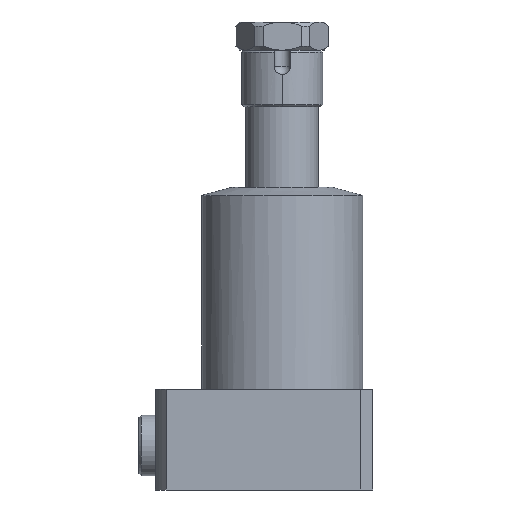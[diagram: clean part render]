
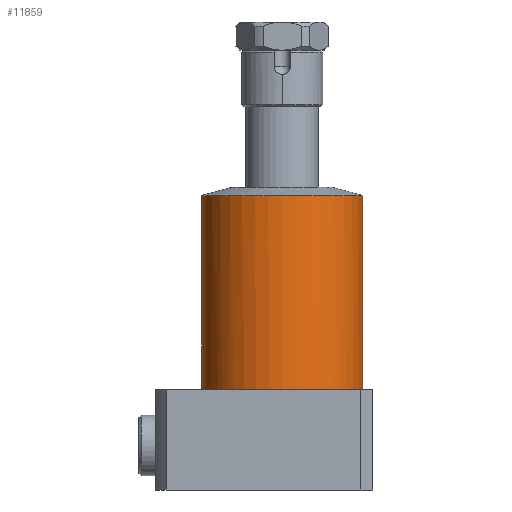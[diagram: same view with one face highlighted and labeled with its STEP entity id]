
A CAD part, front view. The second image highlights one B-rep face of the part: STEP entity #11859.
In plain terms, the highlighted cylindrical face has radius 20 mm (diameter 40 mm), a partial arc.
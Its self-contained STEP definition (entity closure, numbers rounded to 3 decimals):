
#250 = CARTESIAN_POINT ( 'NONE',  ( 0., 0., 75. ) ) ;
#312 = CARTESIAN_POINT ( 'NONE',  ( 15.909, -12.12, 25. ) ) ;
#523 = VECTOR ( 'NONE', #1491, 1000. ) ;
#920 = CARTESIAN_POINT ( 'NONE',  ( -20., 0., 25. ) ) ;
#990 = AXIS2_PLACEMENT_3D ( 'NONE', #9708, #1537, #11060 ) ;
#1280 = DIRECTION ( 'NONE',  ( -1., 0., 0. ) ) ;
#1489 = EDGE_CURVE ( 'NONE', #8968, #14851, #10372, .T. ) ;
#1491 = DIRECTION ( 'NONE',  ( 0., 0., -1. ) ) ;
#1537 = DIRECTION ( 'NONE',  ( 0., 0., -1. ) ) ;
#1540 = CARTESIAN_POINT ( 'NONE',  ( -20., 0., 75. ) ) ;
#1660 = CARTESIAN_POINT ( 'NONE',  ( 0., 0., 25. ) ) ;
#2323 = VERTEX_POINT ( 'NONE', #7918 ) ;
#2844 = CARTESIAN_POINT ( 'NONE',  ( -20., 0., 72.99 ) ) ;
#2946 = CARTESIAN_POINT ( 'NONE',  ( 0., 0., 25. ) ) ;
#2949 = AXIS2_PLACEMENT_3D ( 'NONE', #6509, #16010, #7887 ) ;
#3023 = DIRECTION ( 'NONE',  ( -1., 0., 0. ) ) ;
#3187 = EDGE_LOOP ( 'NONE', ( #16147, #6882, #9037, #5085, #3814, #15012, #13877, #3972 ) ) ;
#3727 = CARTESIAN_POINT ( 'NONE',  ( -15.909, -12.12, 25. ) ) ;
#3814 = ORIENTED_EDGE ( 'NONE', *, *, #4224, .F. ) ;
#3972 = ORIENTED_EDGE ( 'NONE', *, *, #1489, .F. ) ;
#4125 = LINE ( 'NONE', #12380, #523 ) ;
#4224 = EDGE_CURVE ( 'NONE', #17005, #12054, #15847, .T. ) ;
#4298 = DIRECTION ( 'NONE',  ( -1., 0., 0. ) ) ;
#4940 = LINE ( 'NONE', #1540, #5365 ) ;
#5011 = CARTESIAN_POINT ( 'NONE',  ( -12.12, -15.909, 25. ) ) ;
#5085 = ORIENTED_EDGE ( 'NONE', *, *, #16463, .F. ) ;
#5365 = VECTOR ( 'NONE', #13977, 1000. ) ;
#5478 = AXIS2_PLACEMENT_3D ( 'NONE', #1660, #11169, #3023 ) ;
#5697 = CARTESIAN_POINT ( 'NONE',  ( 20., 0., 25. ) ) ;
#5949 = CYLINDRICAL_SURFACE ( 'NONE', #12529, 20. ) ;
#6508 = CARTESIAN_POINT ( 'NONE',  ( 0., 0., 25. ) ) ;
#6509 = CARTESIAN_POINT ( 'NONE',  ( 0., 0., 25. ) ) ;
#6674 = CIRCLE ( 'NONE', #11266, 20. ) ;
#6882 = ORIENTED_EDGE ( 'NONE', *, *, #14352, .F. ) ;
#7589 = AXIS2_PLACEMENT_3D ( 'NONE', #2946, #12460, #4298 ) ;
#7884 = DIRECTION ( 'NONE',  ( -1., 0., 0. ) ) ;
#7887 = DIRECTION ( 'NONE',  ( -1., 0., 0. ) ) ;
#7918 = CARTESIAN_POINT ( 'NONE',  ( 12.12, -15.909, 25. ) ) ;
#8309 = CIRCLE ( 'NONE', #2949, 20. ) ;
#8389 = EDGE_CURVE ( 'NONE', #10496, #8968, #4125, .T. ) ;
#8968 = VERTEX_POINT ( 'NONE', #5697 ) ;
#9037 = ORIENTED_EDGE ( 'NONE', *, *, #10124, .T. ) ;
#9444 = DIRECTION ( 'NONE',  ( 0., 0., 1. ) ) ;
#9708 = CARTESIAN_POINT ( 'NONE',  ( 0., 0., 25. ) ) ;
#9782 = DIRECTION ( 'NONE',  ( 0., 0., -1. ) ) ;
#9844 = EDGE_CURVE ( 'NONE', #2323, #17005, #6674, .T. ) ;
#10124 = EDGE_CURVE ( 'NONE', #16348, #10699, #4940, .T. ) ;
#10292 = CIRCLE ( 'NONE', #10825, 20. ) ;
#10372 = CIRCLE ( 'NONE', #7589, 20. ) ;
#10496 = VERTEX_POINT ( 'NONE', #12462 ) ;
#10699 = VERTEX_POINT ( 'NONE', #920 ) ;
#10825 = AXIS2_PLACEMENT_3D ( 'NONE', #17586, #9444, #1280 ) ;
#11060 = DIRECTION ( 'NONE',  ( -1., 0., 0. ) ) ;
#11090 = EDGE_CURVE ( 'NONE', #14851, #2323, #8309, .T. ) ;
#11122 = DIRECTION ( 'NONE',  ( -1., 0., 0. ) ) ;
#11169 = DIRECTION ( 'NONE',  ( 0., 0., -1. ) ) ;
#11266 = AXIS2_PLACEMENT_3D ( 'NONE', #6508, #16009, #7884 ) ;
#11859 = ADVANCED_FACE ( 'NONE', ( #14439 ), #5949, .T. ) ;
#12054 = VERTEX_POINT ( 'NONE', #3727 ) ;
#12380 = CARTESIAN_POINT ( 'NONE',  ( 20., 0., 75. ) ) ;
#12460 = DIRECTION ( 'NONE',  ( 0., 0., -1. ) ) ;
#12462 = CARTESIAN_POINT ( 'NONE',  ( 20., 0., 72.99 ) ) ;
#12529 = AXIS2_PLACEMENT_3D ( 'NONE', #250, #9782, #11122 ) ;
#12594 = CIRCLE ( 'NONE', #5478, 20. ) ;
#13877 = ORIENTED_EDGE ( 'NONE', *, *, #11090, .F. ) ;
#13977 = DIRECTION ( 'NONE',  ( 0., 0., -1. ) ) ;
#14352 = EDGE_CURVE ( 'NONE', #16348, #10496, #10292, .T. ) ;
#14439 = FACE_OUTER_BOUND ( 'NONE', #3187, .T. ) ;
#14851 = VERTEX_POINT ( 'NONE', #312 ) ;
#15012 = ORIENTED_EDGE ( 'NONE', *, *, #9844, .F. ) ;
#15847 = CIRCLE ( 'NONE', #990, 20. ) ;
#16009 = DIRECTION ( 'NONE',  ( 0., 0., -1. ) ) ;
#16010 = DIRECTION ( 'NONE',  ( 0., 0., -1. ) ) ;
#16147 = ORIENTED_EDGE ( 'NONE', *, *, #8389, .F. ) ;
#16348 = VERTEX_POINT ( 'NONE', #2844 ) ;
#16463 = EDGE_CURVE ( 'NONE', #12054, #10699, #12594, .T. ) ;
#17005 = VERTEX_POINT ( 'NONE', #5011 ) ;
#17586 = CARTESIAN_POINT ( 'NONE',  ( 0., 0., 72.99 ) ) ;
